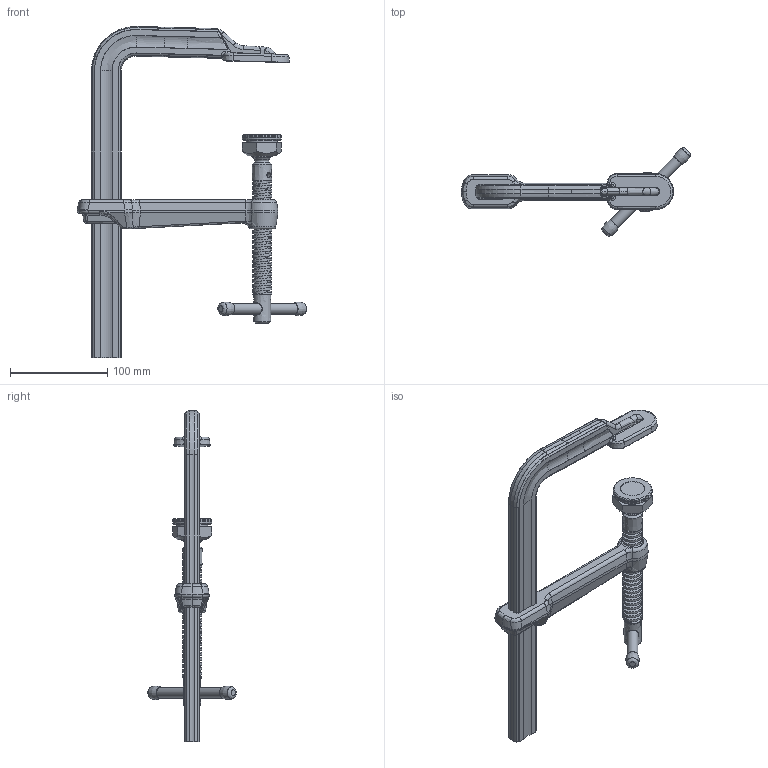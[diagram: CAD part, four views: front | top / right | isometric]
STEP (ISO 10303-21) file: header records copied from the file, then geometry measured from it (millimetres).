
FILE_DESCRIPTION( ('This file contains a STEP AP42 implementation' ,'as created by ZW3D STEP Interface translator.') ,'2;1' );
FILE_NAME( 'GSM20.stp' ,'20 630.1144 4', (''), ('ZWCAD Software Co.'), 'Version 1.0', 'ZW3D to STEP translator', '' );
FILE_SCHEMA(('AUTOMOTIVE_DESIGN'));
Length unit declared in the file: millimetre
Products named in the file (11): 0; GSM20; Festbügel_CSG20; Gleitbügel; 3100705b_Gleitb_kpl_SG14M; 3001156b; 3100123_Spindel_kpl_SGM; 3000047_Spindel_SGM; 3101541a_Druckplatte kpl 2-Lini; 3007071_Bolzen_HLZ; 3008298b
Assembly tree (9 placements, depth 5):
  0
  GSM20
    Festbügel_CSG20
    Gleitbügel
      3100705b_Gleitb_kpl_SG14M
        3001156b
        3100123_Spindel_kpl_SGM
          3000047_Spindel_SGM
        3101541a_Druckplatte kpl 2-Lini
          3007071_Bolzen_HLZ
          3008298b
Bounding box: 235.33 x 91.11 x 339.92 mm (x, y, z)
Volume: 373377.7 mm3; surface area: 105754.7 mm2
Topology: 8 solids, 9 shells, 468 faces, 1250 edges, 939 vertices
Faces by surface type: bspline 468
Entity records: 137424 total; most frequent: CARTESIAN_POINT 130200, ORIENTED_EDGE 2193, EDGE_CURVE 1101, B_SPLINE_CURVE_WITH_KNOTS 783, VERTEX_POINT 654, EDGE_LOOP 486, FACE_OUTER_BOUND 468, ADVANCED_FACE 468
